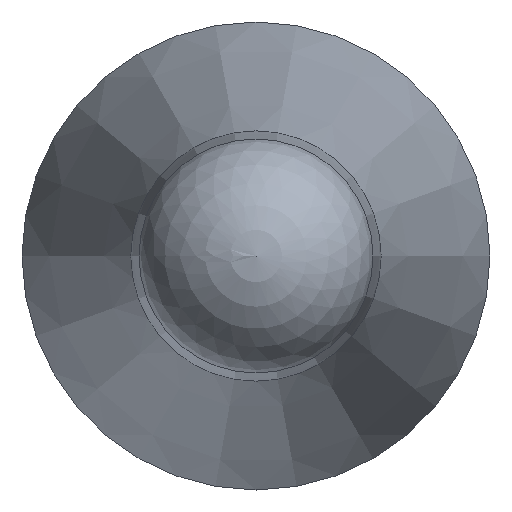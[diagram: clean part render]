
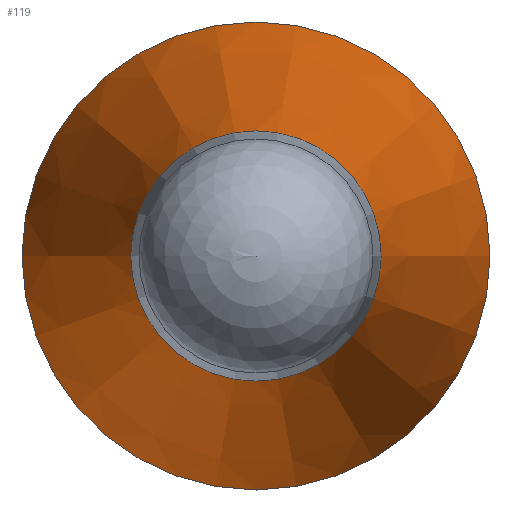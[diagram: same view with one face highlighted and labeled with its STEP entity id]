
A CAD part, left-side view. The second image highlights one B-rep face of the part: STEP entity #119.
In plain terms, the highlighted conical face has half-angle 12 degrees and reference radius 4 mm.
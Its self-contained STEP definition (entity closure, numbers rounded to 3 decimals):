
#97=CONICAL_SURFACE('',#194,4.,12.);
#106=FACE_BOUND('',#134,.T.);
#107=FACE_BOUND('',#135,.T.);
#119=ADVANCED_FACE('',(#106,#107),#97,.T.);
#134=EDGE_LOOP('',(#150));
#135=EDGE_LOOP('',(#151));
#150=ORIENTED_EDGE('',*,*,#172,.F.);
#151=ORIENTED_EDGE('',*,*,#173,.T.);
#164=VERTEX_POINT('',#249);
#165=VERTEX_POINT('',#252);
#172=EDGE_CURVE('',#164,#164,#180,.T.);
#173=EDGE_CURVE('',#165,#165,#181,.T.);
#180=CIRCLE('',#191,2.139);
#181=CIRCLE('',#193,4.);
#191=AXIS2_PLACEMENT_3D('',#248,#215,#216);
#193=AXIS2_PLACEMENT_3D('',#251,#219,#220);
#194=AXIS2_PLACEMENT_3D('',#253,#221,#222);
#215=DIRECTION('',(-1.,0.,0.));
#216=DIRECTION('',(0.,-1.,0.));
#219=DIRECTION('',(-1.,0.,0.));
#220=DIRECTION('',(0.,-1.,0.));
#221=DIRECTION('',(1.,0.,0.));
#222=DIRECTION('',(0.,1.,0.));
#248=CARTESIAN_POINT('',(7913.912,6103.288,0.));
#249=CARTESIAN_POINT('',(7913.912,6101.15,0.));
#251=CARTESIAN_POINT('',(7922.669,6103.288,0.));
#252=CARTESIAN_POINT('',(7922.669,6099.288,0.));
#253=CARTESIAN_POINT('',(7922.669,6103.288,0.));
